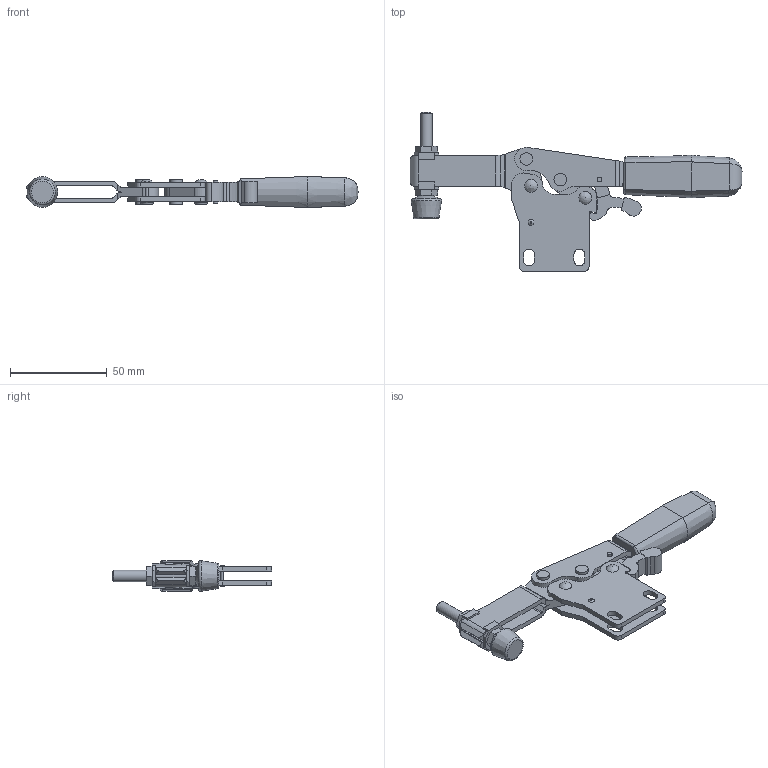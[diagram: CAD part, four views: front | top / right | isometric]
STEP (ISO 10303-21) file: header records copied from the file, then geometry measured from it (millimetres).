
FILE_DESCRIPTION( ( 'STEP AP203' ), '1' );
FILE_NAME( 'C:/Temp/Ganter_Step_05_03_2020/data/2_4/gn_820_4/gn_820_4_ni/Stainless Steel-Toggle clamp GN 820.4-130-NLC-NI (closed).stp', '2020-03-13T05:53:49', ( 'License CC BY-ND 4.0' ), ( 'CADENAS' ), ' ', 'PARTsolutions', ' ' );
FILE_SCHEMA( ( 'CONFIG_CONTROL_DESIGN' ) );
Length unit declared in the file: millimetre
Products named in the file (8): Stainless Steel-Toggle clamp GN 820.4-130-NLC-NI (closed); _Toggle clamp GN 820.4-130-NLC-NI-1; _Toggle clamp GN 820.4-130-NLC-NI (1)-2; _Toggle clamp GN 820.4-130-NLC-NI (1)-3; _Toggle clamp GN 820.4-130-NLC-NI (1)-4; _Toggle clamp GN 820.4-130-NLC-NI-5; _Toggle clamp GN 820.4-130-NLC-NI-7; _Clamping bolt GN 708.1-M6-55-A-ST PLC
Assembly tree (8 placements, depth 2):
  Stainless Steel-Toggle clamp GN 820.4-130-NLC-NI (closed)
    _Toggle clamp GN 820.4-130-NLC-NI-1
    _Toggle clamp GN 820.4-130-NLC-NI (1)-2
    _Toggle clamp GN 820.4-130-NLC-NI (1)-3
    _Toggle clamp GN 820.4-130-NLC-NI (1)-4
    _Toggle clamp GN 820.4-130-NLC-NI-5
    _Toggle clamp GN 820.4-130-NLC-NI-7  x2
    _Clamping bolt GN 708.1-M6-55-A-ST PLC
Bounding box: 171.5 x 82.25 x 16 mm (x, y, z)
Volume: 42948.4 mm3; surface area: 26387.5 mm2
Topology: 8 solids, 8 shells, 312 faces, 809 edges, 530 vertices
Faces by surface type: plane 164, cylinder 101, cone 35, bspline 6, torus 6
Full cylindrical faces by diameter (mm): 1.4 x1, 2.5 x5, 4.4 x4, 4.917 x2, 5.5 x2, 6 x1, 6.5 x10
Entity records: 8668 total; most frequent: CARTESIAN_POINT 1819, DIRECTION 1391, ORIENTED_EDGE 1312, EDGE_CURVE 656, AXIS2_PLACEMENT_3D 514, VERTEX_POINT 454, LINE 363, VECTOR 363
